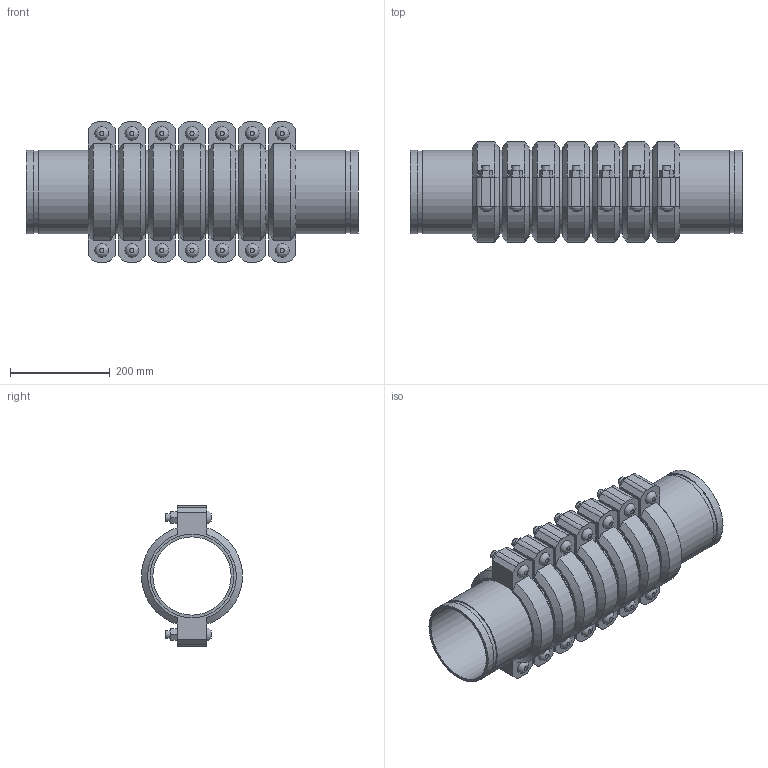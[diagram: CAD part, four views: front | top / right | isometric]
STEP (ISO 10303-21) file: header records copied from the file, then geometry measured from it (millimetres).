
FILE_DESCRIPTION(/* description */ ('VIC SS EXPANSION JOINT 7 COUPLINGS COMPRESSED STYLE 155P (OGS) (POTABLE WATER) ','CAx-IF Rec.Pracs.---Representation and Presentation of Product Manufacturing Information (PMI)---4.0---2014-10-13'),/* implementation_level */ '2;1');
FILE_NAME(/* name */ 'C:\Users\kkamble\AppData\Roaming\Autodesk\ApplicationPlugins\Victaulic.Temp\A968\Victaulic_SS_Expansion Joint_Compressed_7 Couplings_Style 155P (OGS)-Potable Water_7 Coup_Comp_6 (150).stp',/* time_stamp */ '2021-07-16T17:16:07+06:00',/* author */ ('kkamble'),/* organization */ ('Victaulic'),/* preprocessor_version */ 'ST-DEVELOPER v17.2',/* originating_system */ 'Autodesk Inventor 2019',/* authorisation */ '');
FILE_SCHEMA (('AP242_MANAGED_MODEL_BASED_3D_ENGINEERING_MIM_LF { 1 0 10303 442 1 1 4 }'));
Length unit declared in the file: inch
Products named in the file (4): 155P-06.0; Nipple-06.0; Nipple-06.0_1; 075-06.0
Assembly tree (15 placements, depth 2):
  155P-06.0
    Nipple-06.0  x2
    Nipple-06.0_1  x6
    075-06.0  x7
Bounding box: 666.75 x 202.46 x 281.18 mm (x, y, z)
Volume: 6971414.8 mm3; surface area: 1530901 mm2
Topology: 15 solids, 29 shells, 467 faces, 1129 edges, 794 vertices
Faces by surface type: plane 286, cylinder 139, cone 28, bspline 14
Full cylindrical faces by diameter (mm): 15.875 x28, 17.424 x14, 157.15 x8, 163.957 x16, 168.275 x31
Entity records: 2721 total; most frequent: CARTESIAN_POINT 485, DIRECTION 455, ORIENTED_EDGE 374, EDGE_CURVE 187, AXIS2_PLACEMENT_3D 182, VERTEX_POINT 134, EDGE_LOOP 101, LINE 91
